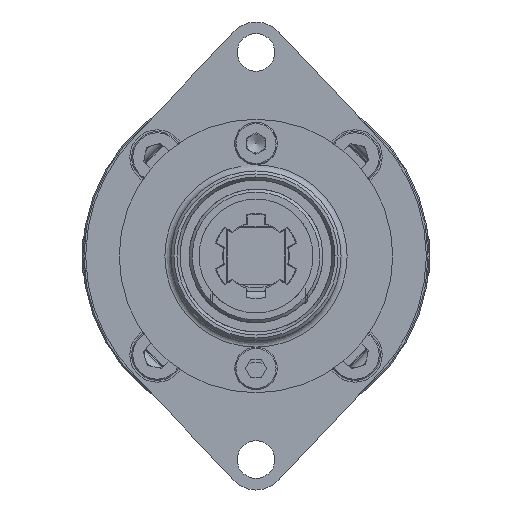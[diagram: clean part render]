
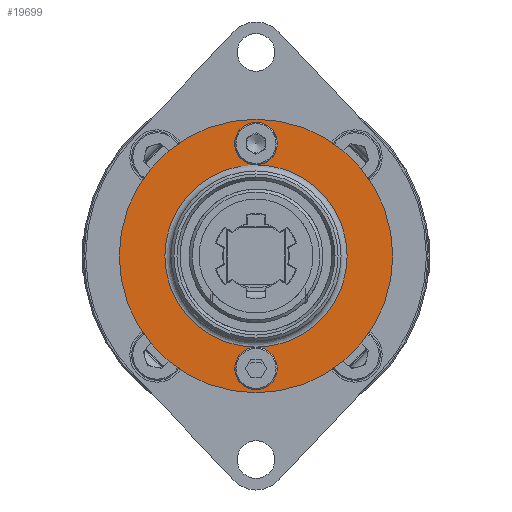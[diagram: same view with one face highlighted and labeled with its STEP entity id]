
A CAD part, left-side view. The second image highlights one B-rep face of the part: STEP entity #19699.
In plain terms, the highlighted planar face has unit normal (-1, 0, 0).
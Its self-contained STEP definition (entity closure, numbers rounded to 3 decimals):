
#560 = DIRECTION ( 'NONE',  ( 0., -1., 0. ) ) ;
#978 = CARTESIAN_POINT ( 'NONE',  ( -161., 0., 0. ) ) ;
#1054 = CIRCLE ( 'NONE', #12310, 22.5 ) ;
#1792 = EDGE_CURVE ( 'NONE', #12429, #12429, #1054, .T. ) ;
#1884 = ORIENTED_EDGE ( 'NONE', *, *, #10190, .F. ) ;
#2097 = DIRECTION ( 'NONE',  ( 1., 0., 0. ) ) ;
#2570 = DIRECTION ( 'NONE',  ( -1., 0., 0. ) ) ;
#3174 = CARTESIAN_POINT ( 'NONE',  ( -161., 0., 0. ) ) ;
#3687 = CIRCLE ( 'NONE', #14957, 3.5 ) ;
#4012 = PLANE ( 'NONE',  #18794 ) ;
#4297 = ORIENTED_EDGE ( 'NONE', *, *, #1792, .T. ) ;
#4743 = CARTESIAN_POINT ( 'NONE',  ( -161., -22.5, 0. ) ) ;
#5603 = CIRCLE ( 'NONE', #19145, 15. ) ;
#5712 = FACE_BOUND ( 'NONE', #19336, .T. ) ;
#5823 = DIRECTION ( 'NONE',  ( 0., -1., 0. ) ) ;
#6193 = ORIENTED_EDGE ( 'NONE', *, *, #12046, .T. ) ;
#6936 = CARTESIAN_POINT ( 'NONE',  ( -161., 0., 15. ) ) ;
#7703 = CARTESIAN_POINT ( 'NONE',  ( -161., 0., 0. ) ) ;
#8774 = CARTESIAN_POINT ( 'NONE',  ( -161., 0., 18.5 ) ) ;
#9273 = ORIENTED_EDGE ( 'NONE', *, *, #19821, .T. ) ;
#10190 = EDGE_CURVE ( 'NONE', #16024, #16024, #13390, .T. ) ;
#10585 = CARTESIAN_POINT ( 'NONE',  ( -161., 0., -15. ) ) ;
#10940 = ORIENTED_EDGE ( 'NONE', *, *, #12538, .F. ) ;
#11064 = DIRECTION ( 'NONE',  ( -1., 0., 0. ) ) ;
#12046 = EDGE_CURVE ( 'NONE', #16024, #13045, #16717, .T. ) ;
#12268 = DIRECTION ( 'NONE',  ( -1., 0., 0. ) ) ;
#12310 = AXIS2_PLACEMENT_3D ( 'NONE', #978, #2570, #17710 ) ;
#12429 = VERTEX_POINT ( 'NONE', #4743 ) ;
#12538 = EDGE_CURVE ( 'NONE', #13045, #13045, #3687, .T. ) ;
#12562 = DIRECTION ( 'NONE',  ( 0., -1., 0. ) ) ;
#13045 = VERTEX_POINT ( 'NONE', #10585 ) ;
#13390 = CIRCLE ( 'NONE', #13711, 3.5 ) ;
#13704 = DIRECTION ( 'NONE',  ( 0., -1., 0. ) ) ;
#13711 = AXIS2_PLACEMENT_3D ( 'NONE', #8774, #15202, #5823 ) ;
#14957 = AXIS2_PLACEMENT_3D ( 'NONE', #18807, #11064, #18699 ) ;
#15202 = DIRECTION ( 'NONE',  ( -1., 0., 0. ) ) ;
#16024 = VERTEX_POINT ( 'NONE', #6936 ) ;
#16717 = CIRCLE ( 'NONE', #19308, 15. ) ;
#17176 = CARTESIAN_POINT ( 'NONE',  ( -161., 0., 0. ) ) ;
#17710 = DIRECTION ( 'NONE',  ( 0., -1., 0. ) ) ;
#17739 = FACE_OUTER_BOUND ( 'NONE', #18852, .T. ) ;
#18671 = DIRECTION ( 'NONE',  ( 1., 0., 0. ) ) ;
#18699 = DIRECTION ( 'NONE',  ( 0., -1., 0. ) ) ;
#18794 = AXIS2_PLACEMENT_3D ( 'NONE', #7703, #12268, #13704 ) ;
#18807 = CARTESIAN_POINT ( 'NONE',  ( -161., 0., -18.5 ) ) ;
#18852 = EDGE_LOOP ( 'NONE', ( #4297 ) ) ;
#19145 = AXIS2_PLACEMENT_3D ( 'NONE', #3174, #2097, #12562 ) ;
#19308 = AXIS2_PLACEMENT_3D ( 'NONE', #17176, #18671, #560 ) ;
#19336 = EDGE_LOOP ( 'NONE', ( #10940, #9273, #1884, #6193 ) ) ;
#19699 = ADVANCED_FACE ( 'NONE', ( #5712, #17739 ), #4012, .T. ) ;
#19821 = EDGE_CURVE ( 'NONE', #13045, #16024, #5603, .T. ) ;
